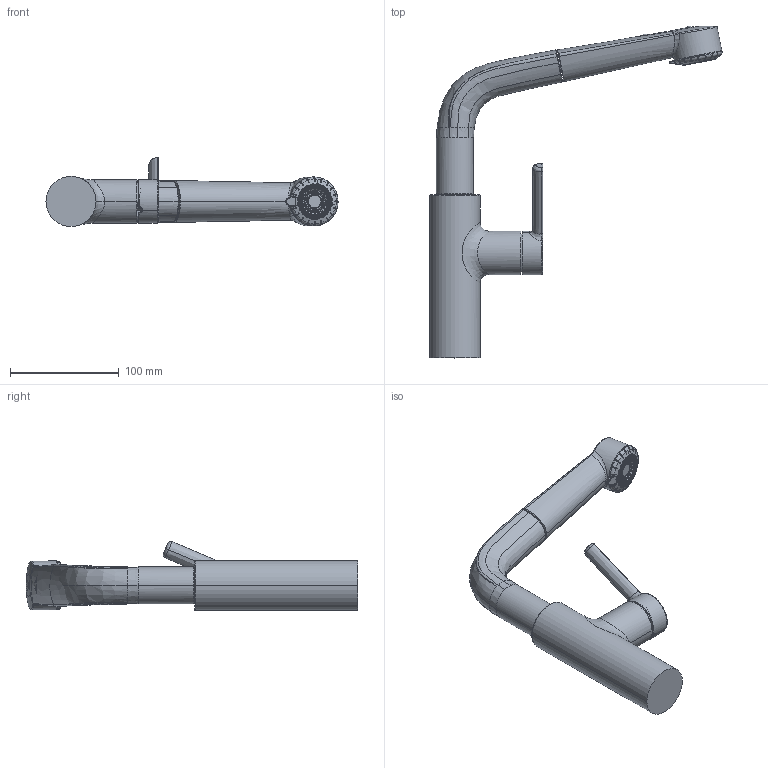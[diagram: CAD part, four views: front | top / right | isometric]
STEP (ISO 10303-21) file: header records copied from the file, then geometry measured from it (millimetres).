
FILE_DESCRIPTION((''),'2;1');
FILE_NAME('10171003','2016-07-21T',('peig'),(''),'PRO/ENGINEER BY PARAMETRIC TECHNOLOGY CORPORATION, 2014000','PRO/ENGINEER BY PARAMETRIC TECHNOLOGY CORPORATION, 2014000','');
FILE_SCHEMA(('CONFIG_CONTROL_DESIGN'));
Products named in the file (1): 10171003
Bounding box: 268.25 x 304.77 x 63.41 mm (x, y, z)
Volume: 615639 mm3; surface area: 79538.3 mm2
Topology: 1 solids, 2 shells, 935 faces, 2657 edges, 1726 vertices
Faces by surface type: bspline 436, plane 192, torus 130, cylinder 84, cone 53, sphere 38, extrusion 2
Entity records: 77804 total; most frequent: CARTESIAN_POINT 57337, ORIENTED_EDGE 5304, DIRECTION 2808, EDGE_CURVE 2652, VERTEX_POINT 1726, B_SPLINE_CURVE_WITH_KNOTS 1528, AXIS2_PLACEMENT_3D 1183, EDGE_LOOP 988
